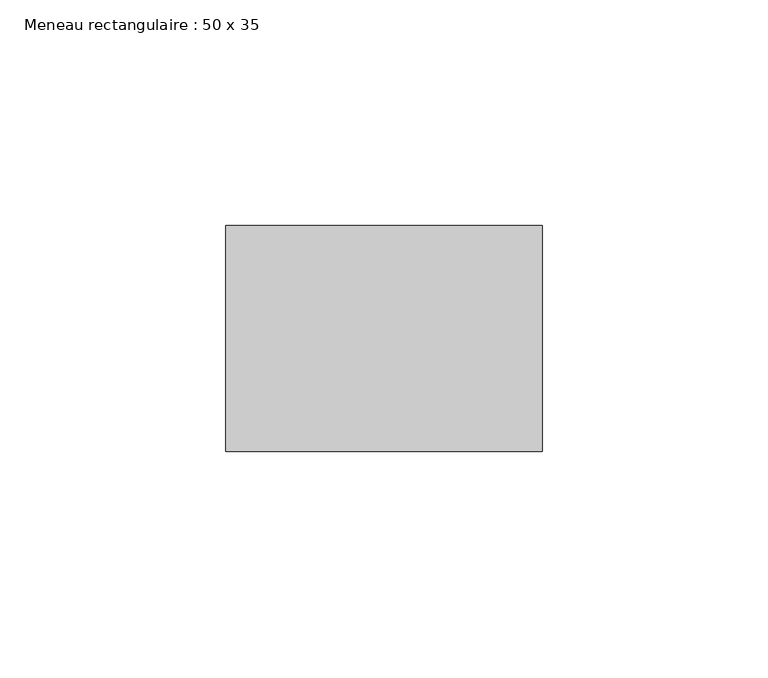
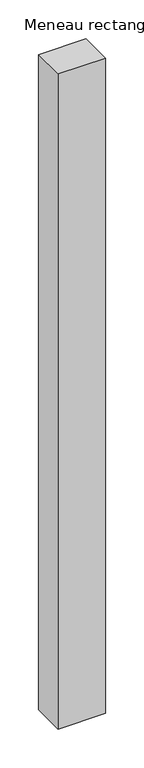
"""IFC4 building model written with IfcOpenShell, lengths in millimetres: member geometry, Meneau rectangulaire : 50 x 35."""

from ifc_helpers import new_model, si_unit, frame, origin, place, context, project, spatial, polyline, outline, extrude, source, transform, mapped, element, save


def meneau_rectangulaire_50_x_35_b9b667d4(model_context):
    return source(origin(), model_context, "Body", "SweptSolid", [
        extrude(outline(polyline([(0.0, 0.0), (0.0, -50.0), (-70.0, -50.0), (-70.0, 0.0), (0.0, 0.0)])), frame((0.0, 0.0, -1028.0), z_axis=(0.0, 0.0, 1.0), x_axis=(1.0, 0.0, 0.0)), (0.0, 0.0, 1.0), 1028.0),
    ])


if __name__ == "__main__":
    model = new_model("IFC4")
    model_context = context("Model", 3, world=origin())
    ifc_project = project(units=[si_unit("LENGTHUNIT", "METRE", prefix="MILLI")], contexts=[model_context])
    site = spatial("IfcSite", under=ifc_project)
    building = spatial("IfcBuilding", under=site)
    placement = place(None, origin())
    meneau_rectangulaire_50_x_35_shape = meneau_rectangulaire_50_x_35_b9b667d4(model_context)
    element("IfcMember", 1, ObjectType="Meneau rectangulaire : 50 x 35", at=placement, inside=building, context=model_context, shape_type="MappedRepresentation", body=[
        mapped(meneau_rectangulaire_50_x_35_shape, transform((0.0, 0.0, 0.0), x_axis=(1.0, 0.0, 0.0), y_axis=(0.0, 1.0, 0.0), z_axis=(0.0, 0.0, 1.0))),
    ])
    save(model, "model.ifc")
